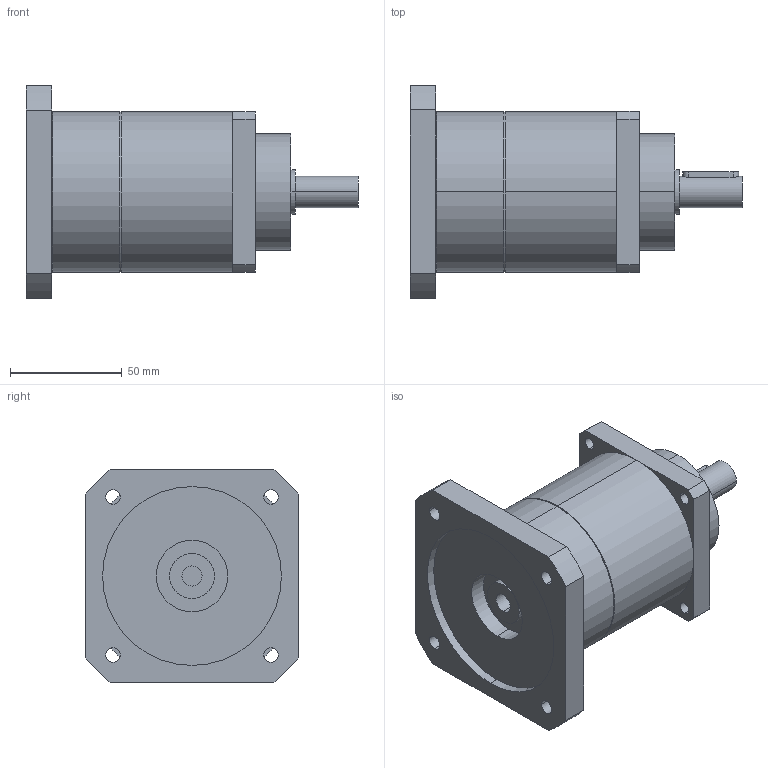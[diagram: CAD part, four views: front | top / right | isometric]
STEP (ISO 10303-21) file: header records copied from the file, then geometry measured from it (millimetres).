
FILE_DESCRIPTION(('CoCreate Modeling STEP Export'),'2;1');
FILE_NAME('GPT75_ig-9-12-16-20-25-28-35-40-50-70-100_14_B5T_9_P07.stp','2014-08-27T13:43:52',(''),(''),'CoCreate Modeling STEP processor for AP214 (Solid Model)','CoCreate Modeling 16.00C 25-Feb-2009 (C) Parametric Technology GmbH','');
FILE_SCHEMA(('AUTOMOTIVE_DESIGN { 1 0 10303 214 1 1 1 1 }'));
Length unit declared in the file: millimetre
Products named in the file (2): GPT75_ig-9-12-16-20-25-28-35-40-50-70-100_14_B5T_9_P07
Assembly tree (1 placements, depth 2):
  GPT75_ig-9-12-16-20-25-28-35-40-50-70-100_14_B5T_9_P07
    GPT75_ig-9-12-16-20-25-28-35-40-50-70-100_14_B5T_9_P07
Bounding box: 148.5 x 95 x 95 mm (x, y, z)
Volume: 492042 mm3; surface area: 53662.7 mm2
Topology: 1 solids, 1 shells, 77 faces, 190 edges, 125 vertices
Faces by surface type: cylinder 46, plane 27, cone 4
Entity records: 2464 total; most frequent: CARTESIAN_POINT 715, ORIENTED_EDGE 380, DIRECTION 320, EDGE_CURVE 190, VERTEX_POINT 125, AXIS2_PLACEMENT_3D 118, EDGE_LOOP 103, VECTOR 84
